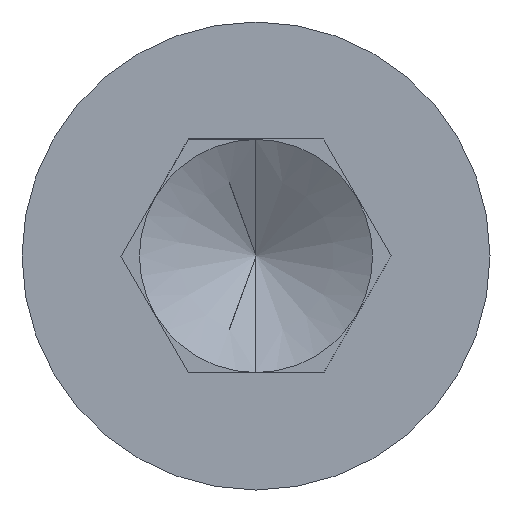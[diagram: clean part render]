
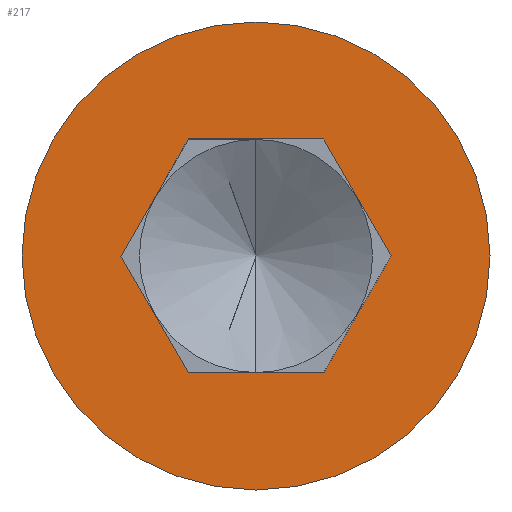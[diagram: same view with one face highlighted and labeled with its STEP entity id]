
A CAD part, left-side view. The second image highlights one B-rep face of the part: STEP entity #217.
In plain terms, the highlighted planar face has unit normal (-1, 0, 0).
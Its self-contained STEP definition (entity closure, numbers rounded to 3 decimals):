
#6 = CARTESIAN_POINT ( 'NONE',  ( -6., -1.443, 2.5 ) ) ;
#14 = EDGE_CURVE ( 'NONE', #215, #469, #422, .T. ) ;
#35 = FACE_BOUND ( 'NONE', #139, .T. ) ;
#37 = VERTEX_POINT ( 'NONE', #79 ) ;
#52 = CARTESIAN_POINT ( 'NONE',  ( -6., -2.887, 0. ) ) ;
#60 = CIRCLE ( 'NONE', #228, 5. ) ;
#61 = DIRECTION ( 'NONE',  ( 0., 1., 0. ) ) ;
#75 = DIRECTION ( 'NONE',  ( 0., 0., 1. ) ) ;
#77 = DIRECTION ( 'NONE',  ( 0., -0.5, -0.866 ) ) ;
#79 = CARTESIAN_POINT ( 'NONE',  ( -6., -1.443, -2.5 ) ) ;
#100 = DIRECTION ( 'NONE',  ( 0., 0.5, -0.866 ) ) ;
#133 = CARTESIAN_POINT ( 'NONE',  ( -6., 2.887, 0. ) ) ;
#136 = CARTESIAN_POINT ( 'NONE',  ( -6., 0., 0. ) ) ;
#139 = EDGE_LOOP ( 'NONE', ( #496, #324, #442, #413, #303, #208 ) ) ;
#148 = AXIS2_PLACEMENT_3D ( 'NONE', #191, #232, #541 ) ;
#151 = VERTEX_POINT ( 'NONE', #175 ) ;
#152 = CARTESIAN_POINT ( 'NONE',  ( -6., 1.443, -2.5 ) ) ;
#157 = CARTESIAN_POINT ( 'NONE',  ( -6., 0., 0. ) ) ;
#162 = EDGE_CURVE ( 'NONE', #473, #268, #385, .T. ) ;
#175 = CARTESIAN_POINT ( 'NONE',  ( -6., 1.443, -2.5 ) ) ;
#181 = DIRECTION ( 'NONE',  ( 0., 0., 1. ) ) ;
#187 = CARTESIAN_POINT ( 'NONE',  ( -6., 0., -5. ) ) ;
#191 = CARTESIAN_POINT ( 'NONE',  ( -6., 2.5, 0. ) ) ;
#198 = EDGE_LOOP ( 'NONE', ( #411, #292 ) ) ;
#205 = VECTOR ( 'NONE', #100, 1000. ) ;
#208 = ORIENTED_EDGE ( 'NONE', *, *, #327, .T. ) ;
#215 = VERTEX_POINT ( 'NONE', #187 ) ;
#216 = LINE ( 'NONE', #152, #549 ) ;
#217 = ADVANCED_FACE ( 'NONE', ( #35, #258 ), #487, .T. ) ;
#222 = EDGE_CURVE ( 'NONE', #268, #332, #472, .T. ) ;
#223 = CARTESIAN_POINT ( 'NONE',  ( -6., 2.5, 2.5 ) ) ;
#225 = DIRECTION ( 'NONE',  ( 0., -1., 0. ) ) ;
#228 = AXIS2_PLACEMENT_3D ( 'NONE', #136, #441, #181 ) ;
#232 = DIRECTION ( 'NONE',  ( -1., 0., 0. ) ) ;
#244 = CARTESIAN_POINT ( 'NONE',  ( -6., 0., 5. ) ) ;
#258 = FACE_OUTER_BOUND ( 'NONE', #198, .T. ) ;
#268 = VERTEX_POINT ( 'NONE', #437 ) ;
#275 = VECTOR ( 'NONE', #225, 1000. ) ;
#278 = VERTEX_POINT ( 'NONE', #133 ) ;
#279 = AXIS2_PLACEMENT_3D ( 'NONE', #157, #339, #75 ) ;
#292 = ORIENTED_EDGE ( 'NONE', *, *, #14, .F. ) ;
#296 = CARTESIAN_POINT ( 'NONE',  ( -6., 2.887, 0. ) ) ;
#303 = ORIENTED_EDGE ( 'NONE', *, *, #222, .T. ) ;
#324 = ORIENTED_EDGE ( 'NONE', *, *, #465, .T. ) ;
#327 = EDGE_CURVE ( 'NONE', #332, #37, #566, .T. ) ;
#332 = VERTEX_POINT ( 'NONE', #485 ) ;
#339 = DIRECTION ( 'NONE',  ( 1., 0., 0. ) ) ;
#354 = LINE ( 'NONE', #410, #454 ) ;
#366 = VECTOR ( 'NONE', #77, 1000. ) ;
#370 = DIRECTION ( 'NONE',  ( 0., 0.5, 0.866 ) ) ;
#385 = LINE ( 'NONE', #223, #275 ) ;
#393 = LINE ( 'NONE', #296, #495 ) ;
#408 = EDGE_CURVE ( 'NONE', #37, #151, #354, .T. ) ;
#410 = CARTESIAN_POINT ( 'NONE',  ( -6., 2.5, -2.5 ) ) ;
#411 = ORIENTED_EDGE ( 'NONE', *, *, #524, .F. ) ;
#413 = ORIENTED_EDGE ( 'NONE', *, *, #162, .T. ) ;
#422 = CIRCLE ( 'NONE', #279, 5. ) ;
#437 = CARTESIAN_POINT ( 'NONE',  ( -6., -1.443, 2.5 ) ) ;
#441 = DIRECTION ( 'NONE',  ( 1., 0., 0. ) ) ;
#442 = ORIENTED_EDGE ( 'NONE', *, *, #556, .T. ) ;
#454 = VECTOR ( 'NONE', #61, 1000. ) ;
#465 = EDGE_CURVE ( 'NONE', #151, #278, #216, .T. ) ;
#469 = VERTEX_POINT ( 'NONE', #244 ) ;
#472 = LINE ( 'NONE', #6, #366 ) ;
#473 = VERTEX_POINT ( 'NONE', #552 ) ;
#481 = DIRECTION ( 'NONE',  ( 0., -0.5, 0.866 ) ) ;
#485 = CARTESIAN_POINT ( 'NONE',  ( -6., -2.887, 0. ) ) ;
#487 = PLANE ( 'NONE',  #148 ) ;
#495 = VECTOR ( 'NONE', #481, 1000. ) ;
#496 = ORIENTED_EDGE ( 'NONE', *, *, #408, .T. ) ;
#524 = EDGE_CURVE ( 'NONE', #469, #215, #60, .T. ) ;
#541 = DIRECTION ( 'NONE',  ( 0., 0., 1. ) ) ;
#549 = VECTOR ( 'NONE', #370, 1000. ) ;
#552 = CARTESIAN_POINT ( 'NONE',  ( -6., 1.443, 2.5 ) ) ;
#556 = EDGE_CURVE ( 'NONE', #278, #473, #393, .T. ) ;
#566 = LINE ( 'NONE', #52, #205 ) ;
